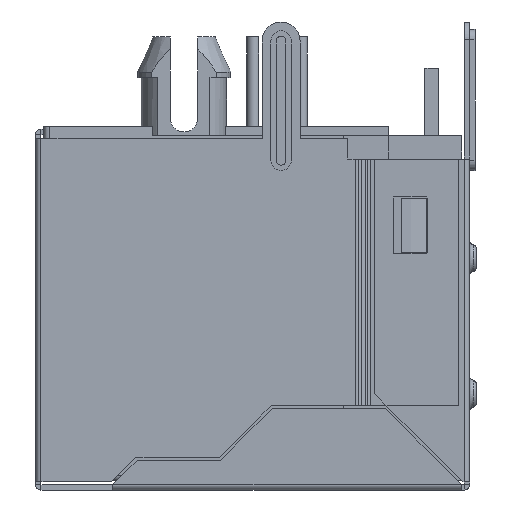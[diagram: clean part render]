
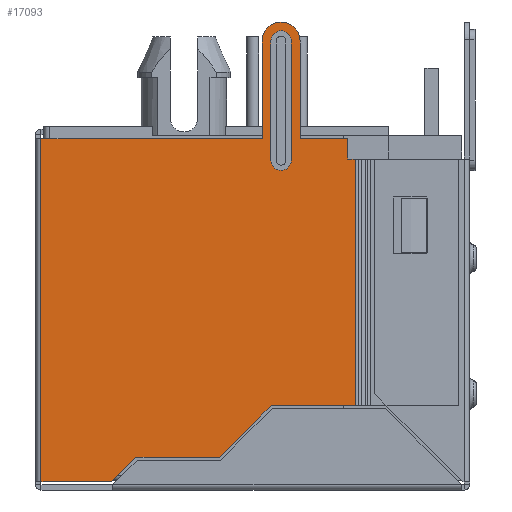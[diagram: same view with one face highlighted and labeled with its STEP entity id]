
A CAD part, left-side view. The second image highlights one B-rep face of the part: STEP entity #17093.
In plain terms, the highlighted planar face has unit normal (-1, 0, 0).
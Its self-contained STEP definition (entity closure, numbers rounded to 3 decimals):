
#2514=DIRECTION('',(0.,0.,-1.));
#2515=VECTOR('',#2514,12.65);
#2516=CARTESIAN_POINT('',(-31.9,7.8,12.95));
#2517=LINE('',#2516,#2515);
#5333=DIRECTION('',(0.,1.,0.));
#5334=VECTOR('',#5333,8.15);
#5335=CARTESIAN_POINT('',(-31.9,-0.35,12.95));
#5336=LINE('',#5335,#5334);
#5337=DIRECTION('',(0.,0.,-1.));
#5338=VECTOR('',#5337,3.6);
#5339=CARTESIAN_POINT('',(-31.9,-0.35,16.55));
#5340=LINE('',#5339,#5338);
#5341=CARTESIAN_POINT('',(-31.9,-1.05,16.55));
#5342=DIRECTION('',(1.,0.,0.));
#5343=DIRECTION('',(0.,1.,0.));
#5344=AXIS2_PLACEMENT_3D('',#5341,#5342,#5343);
#5346=DIRECTION('',(0.,-1.,0.));
#5347=VECTOR('',#5346,0.285);
#5348=CARTESIAN_POINT('',(-31.9,-3.5,12.2));
#5349=LINE('',#5348,#5347);
#5350=DIRECTION('',(0.,0.707,-0.707));
#5351=VECTOR('',#5350,2.687);
#5352=CARTESIAN_POINT('',(-31.9,-0.68,3.1));
#5353=LINE('',#5352,#5351);
#5354=DIRECTION('',(0.,0.707,-0.707));
#5355=VECTOR('',#5354,1.273);
#5356=CARTESIAN_POINT('',(-31.9,4.3,1.2));
#5357=LINE('',#5356,#5355);
#5358=DIRECTION('',(0.,1.,0.));
#5359=VECTOR('',#5358,2.6);
#5360=CARTESIAN_POINT('',(-31.9,5.2,0.3));
#5361=LINE('',#5360,#5359);
#5362=DIRECTION('',(0.,0.,-1.));
#5363=VECTOR('',#5362,4.4);
#5364=CARTESIAN_POINT('',(-31.9,-0.675,16.55));
#5365=LINE('',#5364,#5363);
#5366=CARTESIAN_POINT('',(-31.9,-1.05,12.15));
#5367=DIRECTION('',(-1.,0.,0.));
#5368=DIRECTION('',(0.,1.,0.));
#5369=AXIS2_PLACEMENT_3D('',#5366,#5367,#5368);
#5371=DIRECTION('',(0.,0.,1.));
#5372=VECTOR('',#5371,4.4);
#5373=CARTESIAN_POINT('',(-31.9,-1.425,12.15));
#5374=LINE('',#5373,#5372);
#5375=CARTESIAN_POINT('',(-31.9,-1.05,16.55));
#5376=DIRECTION('',(-1.,0.,0.));
#5377=DIRECTION('',(0.,-1.,0.));
#5378=AXIS2_PLACEMENT_3D('',#5375,#5376,#5377);
#5455=DIRECTION('',(0.,-1.,0.));
#5456=VECTOR('',#5455,3.08);
#5457=CARTESIAN_POINT('',(-31.9,4.3,1.2));
#5458=LINE('',#5457,#5456);
#5467=DIRECTION('',(0.,-1.,0.));
#5468=VECTOR('',#5467,3.105);
#5469=CARTESIAN_POINT('',(-31.9,-0.68,3.1));
#5470=LINE('',#5469,#5468);
#5497=DIRECTION('',(0.,0.,1.));
#5498=VECTOR('',#5497,9.1);
#5499=CARTESIAN_POINT('',(-31.9,-3.785,3.1));
#5500=LINE('',#5499,#5498);
#5523=DIRECTION('',(0.,0.,1.));
#5524=VECTOR('',#5523,0.75);
#5525=CARTESIAN_POINT('',(-31.9,-3.5,12.2));
#5526=LINE('',#5525,#5524);
#5535=DIRECTION('',(0.,1.,0.));
#5536=VECTOR('',#5535,1.75);
#5537=CARTESIAN_POINT('',(-31.9,-3.5,12.95));
#5538=LINE('',#5537,#5536);
#5539=DIRECTION('',(0.,0.,1.));
#5540=VECTOR('',#5539,3.6);
#5541=CARTESIAN_POINT('',(-31.9,-1.75,12.95));
#5542=LINE('',#5541,#5540);
#8069=CARTESIAN_POINT('',(-31.9,7.8,0.3));
#8070=VERTEX_POINT('',#8069);
#8071=CARTESIAN_POINT('',(-31.9,7.8,12.95));
#8072=VERTEX_POINT('',#8071);
#8246=CARTESIAN_POINT('',(-31.9,-1.75,12.95));
#8248=VERTEX_POINT('',#8246);
#8251=CARTESIAN_POINT('',(-31.9,-3.5,12.95));
#8252=VERTEX_POINT('',#8251);
#8254=CARTESIAN_POINT('',(-31.9,-0.35,12.95));
#8256=VERTEX_POINT('',#8254);
#8257=CARTESIAN_POINT('',(-31.9,-1.75,16.55));
#8258=VERTEX_POINT('',#8257);
#8261=CARTESIAN_POINT('',(-31.9,-0.35,16.55));
#8262=VERTEX_POINT('',#8261);
#8263=CARTESIAN_POINT('',(-31.9,-3.5,12.2));
#8264=VERTEX_POINT('',#8263);
#8265=CARTESIAN_POINT('',(-31.9,-3.785,12.2));
#8266=VERTEX_POINT('',#8265);
#8267=CARTESIAN_POINT('',(-31.9,-3.785,3.1));
#8268=VERTEX_POINT('',#8267);
#8269=CARTESIAN_POINT('',(-31.9,-0.68,3.1));
#8270=VERTEX_POINT('',#8269);
#8271=CARTESIAN_POINT('',(-31.9,1.22,1.2));
#8272=VERTEX_POINT('',#8271);
#8273=CARTESIAN_POINT('',(-31.9,4.3,1.2));
#8274=VERTEX_POINT('',#8273);
#8275=CARTESIAN_POINT('',(-31.9,5.2,0.3));
#8276=VERTEX_POINT('',#8275);
#8277=CARTESIAN_POINT('',(-31.9,-0.675,16.55));
#8278=CARTESIAN_POINT('',(-31.9,-0.675,12.15));
#8279=VERTEX_POINT('',#8277);
#8280=VERTEX_POINT('',#8278);
#8281=CARTESIAN_POINT('',(-31.9,-1.425,12.15));
#8282=VERTEX_POINT('',#8281);
#8283=CARTESIAN_POINT('',(-31.9,-1.425,16.55));
#8284=VERTEX_POINT('',#8283);
#17051=CARTESIAN_POINT('',(-31.9,8.,9.921));
#17052=DIRECTION('',(1.,0.,0.));
#17053=DIRECTION('',(0.,0.,1.));
#17054=AXIS2_PLACEMENT_3D('',#17051,#17052,#17053);
#17055=PLANE('',#17054);
#17056=ORIENTED_EDGE('',*,*,#17028,.F.);
#17057=ORIENTED_EDGE('',*,*,#17041,.F.);
#17059=ORIENTED_EDGE('',*,*,#17058,.T.);
#17061=ORIENTED_EDGE('',*,*,#17060,.F.);
#17063=ORIENTED_EDGE('',*,*,#17062,.F.);
#17065=ORIENTED_EDGE('',*,*,#17064,.F.);
#17067=ORIENTED_EDGE('',*,*,#17066,.T.);
#17069=ORIENTED_EDGE('',*,*,#17068,.F.);
#17071=ORIENTED_EDGE('',*,*,#17070,.F.);
#17073=ORIENTED_EDGE('',*,*,#17072,.T.);
#17075=ORIENTED_EDGE('',*,*,#17074,.F.);
#17077=ORIENTED_EDGE('',*,*,#17076,.T.);
#17079=ORIENTED_EDGE('',*,*,#17078,.T.);
#17080=ORIENTED_EDGE('',*,*,#12759,.F.);
#17081=EDGE_LOOP('',(#17056,#17057,#17059,#17061,#17063,#17065,#17067,#17069,
#17071,#17073,#17075,#17077,#17079,#17080));
#17082=FACE_OUTER_BOUND('',#17081,.F.);
#17084=ORIENTED_EDGE('',*,*,#17083,.T.);
#17086=ORIENTED_EDGE('',*,*,#17085,.T.);
#17088=ORIENTED_EDGE('',*,*,#17087,.T.);
#17090=ORIENTED_EDGE('',*,*,#17089,.T.);
#17091=EDGE_LOOP('',(#17084,#17086,#17088,#17090));
#17092=FACE_BOUND('',#17091,.F.);
#17093=ADVANCED_FACE('',(#17082,#17092),#17055,.F.);
#5345=CIRCLE('',#5344,0.7);
#5370=CIRCLE('',#5369,0.375);
#5379=CIRCLE('',#5378,0.375);
#12759=EDGE_CURVE('',#8072,#8070,#2517,.T.);
#17028=EDGE_CURVE('',#8256,#8072,#5336,.T.);
#17041=EDGE_CURVE('',#8262,#8256,#5340,.T.);
#17058=EDGE_CURVE('',#8262,#8258,#5345,.T.);
#17060=EDGE_CURVE('',#8248,#8258,#5542,.T.);
#17062=EDGE_CURVE('',#8252,#8248,#5538,.T.);
#17064=EDGE_CURVE('',#8264,#8252,#5526,.T.);
#17066=EDGE_CURVE('',#8264,#8266,#5349,.T.);
#17068=EDGE_CURVE('',#8268,#8266,#5500,.T.);
#17070=EDGE_CURVE('',#8270,#8268,#5470,.T.);
#17072=EDGE_CURVE('',#8270,#8272,#5353,.T.);
#17074=EDGE_CURVE('',#8274,#8272,#5458,.T.);
#17076=EDGE_CURVE('',#8274,#8276,#5357,.T.);
#17078=EDGE_CURVE('',#8276,#8070,#5361,.T.);
#17083=EDGE_CURVE('',#8279,#8280,#5365,.T.);
#17085=EDGE_CURVE('',#8280,#8282,#5370,.T.);
#17087=EDGE_CURVE('',#8282,#8284,#5374,.T.);
#17089=EDGE_CURVE('',#8284,#8279,#5379,.T.);
